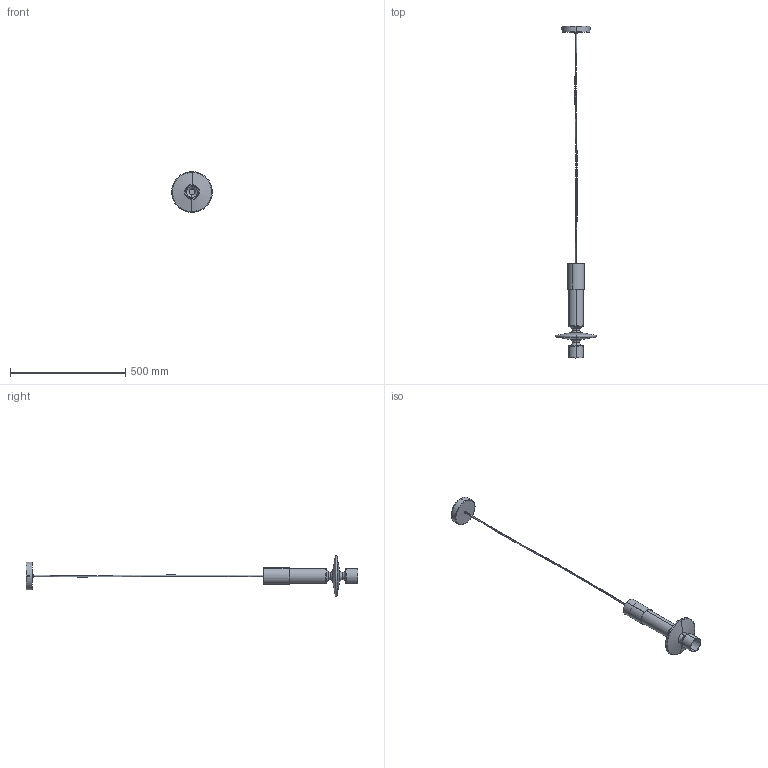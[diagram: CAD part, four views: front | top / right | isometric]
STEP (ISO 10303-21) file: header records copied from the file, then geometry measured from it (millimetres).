
FILE_DESCRIPTION (( 'STEP AP203' ), '1' );
FILE_NAME ('Filamento Vertical 41, Shape 2.STEP', '2026-04-30T09:32:53', ( '' ), ( '' ), 'SwSTEP 2.0', 'SolidWorks 2025', '' );
FILE_SCHEMA (( 'CONFIG_CONTROL_DESIGN' ));
Length unit declared in the file: millimetre
Products named in the file (13): Filamento Vertical 41, Shape 2; Nipplo Steab 5475xx_NIPPLO M10x1 H.7 TRASP.; ATA-X21-S604-R00 - Architetti; ATC-A06-S012-R00 - Architetti_Default<A macchina>; ATA-A06-S000-R00 - Architetti; ATC-X21-S690-R00; Lamp. Halopar GU10 - GZ10 Osram_LAMPADA GU10 50W 220V; ATC-X21-S602-R00; ATC-X21-S604-R00 - Architetti; Nipplo Steab 5475xx_NIPPLO M10x1 H.7 NERO; ATA-X21-S602-R00 - Architetti; Viti a Testa Bombata e Cava Esagonale ISO-7380_VITE M4X12 TBCE ISO-7380 ; Vite a Testa Svasata Piana Cava Esagonale UNI-5933_VITE M3X6 TSPCE UNI-5933
Assembly tree (14 placements, depth 4):
  Filamento Vertical 41, Shape 2
    ATA-X21-S604-R00 - Architetti
      Lamp. Halopar GU10 - GZ10 Osram_LAMPADA GU10 50W 220V
      Nipplo Steab 5475xx_NIPPLO M10x1 H.7 TRASP.
      Vite a Testa Svasata Piana Cava Esagonale UNI-5933_VITE M3X6 TSPCE UNI-5933  x2
      ATC-X21-S604-R00 - Architetti
      ATC-X21-S690-R00
      ATA-A06-S000-R00 - Architetti
        Viti a Testa Bombata e Cava Esagonale ISO-7380_VITE M4X12 TBCE ISO-7380   x2
        Nipplo Steab 5475xx_NIPPLO M10x1 H.7 NERO
        ATC-A06-S012-R00 - Architetti_Default<A macchina>
    ATA-X21-S602-R00 - Architetti
      ATC-X21-S602-R00
Bounding box: 176.9 x 1442 x 176.9 mm (x, y, z)
Volume: 531556.8 mm3; surface area: 361103.3 mm2
Topology: 12 solids, 12 shells, 242 faces, 517 edges, 310 vertices
Faces by surface type: cylinder 85, plane 67, torus 42, cone 42, bspline 6
Entity records: 7814 total; most frequent: CARTESIAN_POINT 1780, DIRECTION 1089, ORIENTED_EDGE 870, AXIS2_PLACEMENT_3D 463, EDGE_CURVE 435, VERTEX_POINT 262, CIRCLE 244, EDGE_LOOP 241
